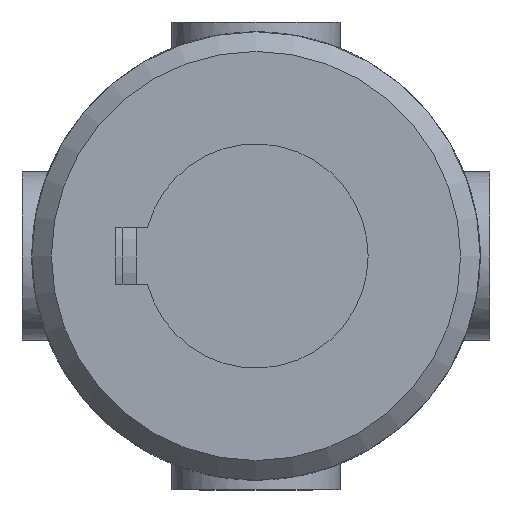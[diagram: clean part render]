
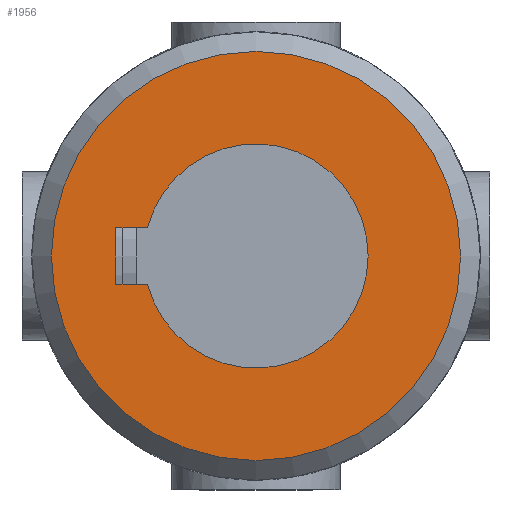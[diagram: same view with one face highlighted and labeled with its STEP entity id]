
A CAD part, front view. The second image highlights one B-rep face of the part: STEP entity #1956.
In plain terms, the highlighted planar face has unit normal (0, -1, 0).
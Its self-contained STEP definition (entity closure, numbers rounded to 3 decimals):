
#123=LINE('',#3555,#192);
#128=LINE('',#3572,#197);
#129=LINE('',#3581,#198);
#192=VECTOR('',#2521,1.127);
#197=VECTOR('',#2532,1.127);
#198=VECTOR('',#2535,2.);
#260=PLANE('',#2143);
#428=FACE_BOUND('',#685,.T.);
#523=FACE_OUTER_BOUND('',#684,.T.);
#684=EDGE_LOOP('',(#1633));
#685=EDGE_LOOP('',(#1634,#1635,#1636,#1637));
#809=CIRCLE('',#2131,4.);
#814=CIRCLE('',#2141,7.3);
#959=VERTEX_POINT('',#3544);
#960=VERTEX_POINT('',#3546);
#962=VERTEX_POINT('',#3554);
#968=VERTEX_POINT('',#3570);
#970=VERTEX_POINT('',#3587);
#1193=EDGE_CURVE('',#960,#959,#809,.T.);
#1196=EDGE_CURVE('',#962,#960,#123,.T.);
#1204=EDGE_CURVE('',#959,#968,#128,.T.);
#1206=EDGE_CURVE('',#968,#962,#129,.T.);
#1209=EDGE_CURVE('',#970,#970,#814,.T.);
#1633=ORIENTED_EDGE('',*,*,#1209,.F.);
#1634=ORIENTED_EDGE('',*,*,#1204,.T.);
#1635=ORIENTED_EDGE('',*,*,#1206,.T.);
#1636=ORIENTED_EDGE('',*,*,#1196,.T.);
#1637=ORIENTED_EDGE('',*,*,#1193,.T.);
#1956=ADVANCED_FACE('',(#523,#428),#260,.F.);
#2131=AXIS2_PLACEMENT_3D('',#3547,#2516,#2517);
#2141=AXIS2_PLACEMENT_3D('',#3588,#2544,#2545);
#2143=AXIS2_PLACEMENT_3D('',#3756,#2552,#2553);
#2516=DIRECTION('center_axis',(0.,1.,0.));
#2517=DIRECTION('ref_axis',(-0.25,0.,0.968));
#2521=DIRECTION('',(0.,0.,1.));
#2532=DIRECTION('',(0.,0.,-1.));
#2535=DIRECTION('',(-1.,0.,0.));
#2544=DIRECTION('center_axis',(0.,1.,0.));
#2545=DIRECTION('ref_axis',(1.,0.,0.));
#2552=DIRECTION('center_axis',(0.,1.,0.));
#2553=DIRECTION('ref_axis',(0.,0.,1.));
#3544=CARTESIAN_POINT('',(1.,-24.,-3.873));
#3546=CARTESIAN_POINT('',(-1.,-24.,-3.873));
#3547=CARTESIAN_POINT('Origin',(0.,-24.,0.));
#3554=CARTESIAN_POINT('',(-1.,-24.,-5.));
#3555=CARTESIAN_POINT('',(-1.,-24.,-2.5));
#3570=CARTESIAN_POINT('',(1.,-24.,-5.));
#3572=CARTESIAN_POINT('',(1.,-24.,-1.936));
#3581=CARTESIAN_POINT('',(0.5,-24.,-5.));
#3587=CARTESIAN_POINT('',(-7.3,-24.,0.));
#3588=CARTESIAN_POINT('Origin',(0.,-24.,0.));
#3756=CARTESIAN_POINT('Origin',(0.,-24.,0.));
